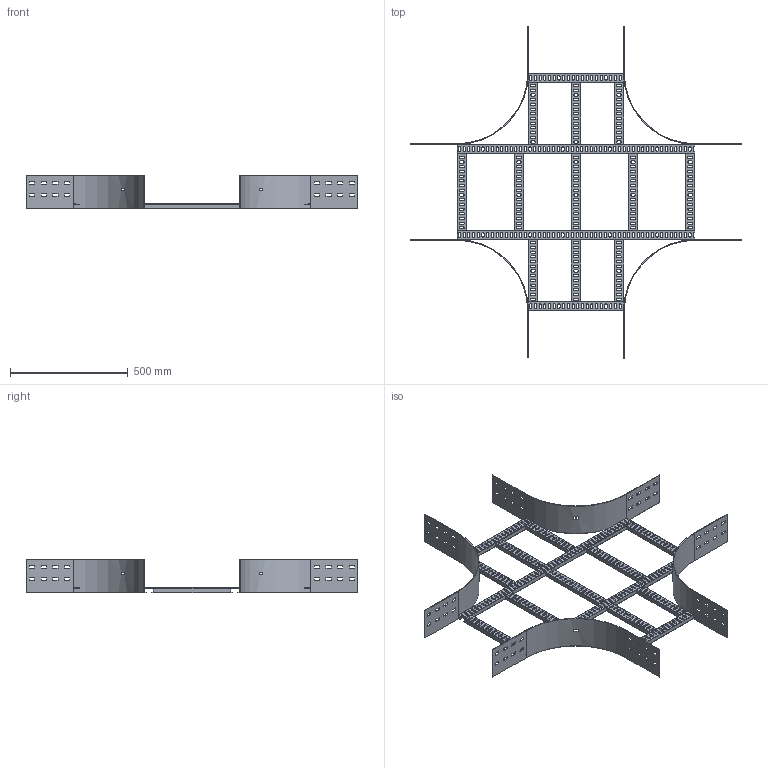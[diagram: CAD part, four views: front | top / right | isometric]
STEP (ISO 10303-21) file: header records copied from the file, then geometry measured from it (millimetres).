
FILE_DESCRIPTION(/* description */ ('','CAx-IF Rec.Pracs.---Representation and Presentation of Product Manufacturing Information (PMI)---4.0---2014-10-13'),/* implementation_level */ '2;1');
FILE_NAME(/* name */ 'Eurostrut_ECO150-400-300_Crossover for Cable Ladder ECL.step',/* time_stamp */ '2026-09-03T13:35:15+02:00',/* author */ (''),/* organization */ (''),/* preprocessor_version */ 'ST-DEVELOPER v20.1',/* originating_system */ 'Autodesk Revit 2027 27.2.0.39',/* authorisation */ '');
FILE_SCHEMA (('AP242_MANAGED_MODEL_BASED_3D_ENGINEERING_MIM_LF { 1 0 10303 442 2 1 4 }'));
Length unit declared in the file: millimetre
Products named in the file (10): TopLevelAssembly; Sweep; Sweep_1; Sweep_2; Sweep_3; Eurostrut_Cable Ladder_Rung_With slots; Eurostrut_Cable Ladder_Rung_With slots_1; Eurostrut_Cable Ladder_Rung Array Straight_Slotted; Eurostrut_Cable Ladder_Rung Array Straight_Slotted_1; Eurostrut_Cable Ladder_Accessory End_54-94-142
Assembly tree (19 placements, depth 2):
  TopLevelAssembly
    Sweep
    Sweep_1
    Eurostrut_Cable Ladder_Rung_With slots  x2
    Eurostrut_Cable Ladder_Rung_With slots_1  x2
    Sweep_2
    Sweep_3
    Eurostrut_Cable Ladder_Rung Array Straight_Slotted
    Eurostrut_Cable Ladder_Rung Array Straight_Slotted_1  x2
    Eurostrut_Cable Ladder_Accessory End_54-94-142  x8
Bounding box: 1411 x 1411 x 142 mm (x, y, z)
Volume: 2179340 mm3; surface area: 2037414.1 mm2
Topology: 27 solids, 27 shells, 1814 faces, 5280 edges, 3520 vertices
Faces by surface type: plane 1146, bspline 600, cylinder 68
Entity records: 45442 total; most frequent: CARTESIAN_POINT 17703, ORIENTED_EDGE 5928, DIRECTION 5170, EDGE_CURVE 2964, LINE 2092, VECTOR 2092, VERTEX_POINT 1976, AXIS2_PLACEMENT_3D 1539
